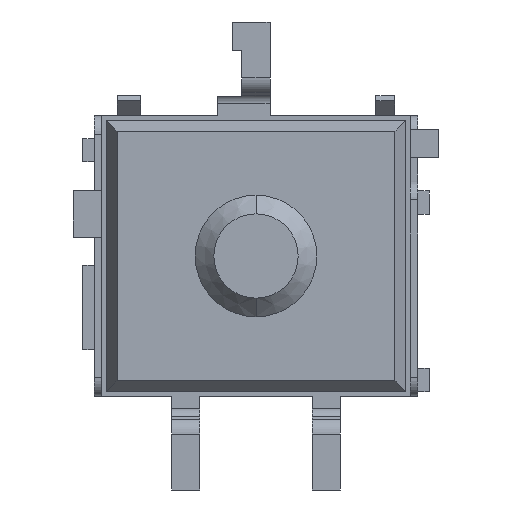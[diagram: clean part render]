
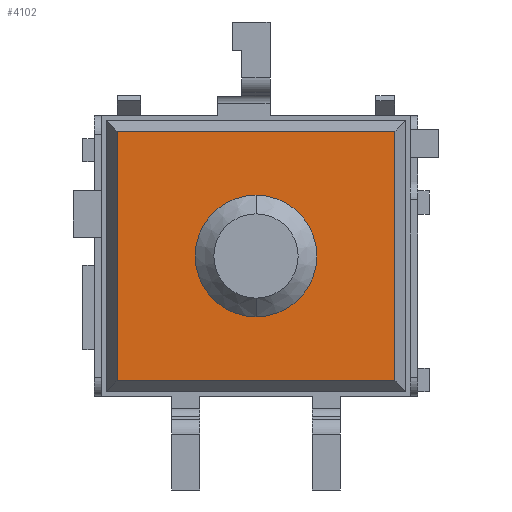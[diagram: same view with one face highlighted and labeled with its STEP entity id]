
A CAD part, front view. The second image highlights one B-rep face of the part: STEP entity #4102.
In plain terms, the highlighted planar face has unit normal (0, -1, 0).
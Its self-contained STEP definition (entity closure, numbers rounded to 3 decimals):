
#106 = FACE_OUTER_BOUND ( 'NONE', #271, .T. ) ;
#114 = FACE_BOUND ( 'NONE', #4681, .T. ) ;
#271 = EDGE_LOOP ( 'NONE', ( #9002, #9111, #9120, #9113 ) ) ;
#2100 = CARTESIAN_POINT ( 'NONE',  ( 0., -0.2, 0. ) ) ;
#2101 = DIRECTION ( 'NONE',  ( 0., -1., 0. ) ) ;
#2102 = DIRECTION ( 'NONE',  ( 0., 0., -1. ) ) ;
#2123 = CARTESIAN_POINT ( 'NONE',  ( 0., -0.2, 0. ) ) ;
#2125 = DIRECTION ( 'NONE',  ( 0., -1., 0. ) ) ;
#2126 = DIRECTION ( 'NONE',  ( 0., 0., -1. ) ) ;
#2139 = CARTESIAN_POINT ( 'NONE',  ( -1.485, -0.2, -1.45 ) ) ;
#2140 = DIRECTION ( 'NONE',  ( 0., 0., 1. ) ) ;
#2141 = CARTESIAN_POINT ( 'NONE',  ( -1.65, -0.2, 1.335 ) ) ;
#2143 = CARTESIAN_POINT ( 'NONE',  ( 1.485, -0.2, -1.45 ) ) ;
#2144 = DIRECTION ( 'NONE',  ( 0., 0., -1. ) ) ;
#2147 = DIRECTION ( 'NONE',  ( 1., 0., 0. ) ) ;
#2562 = CIRCLE ( 'NONE', #4009, 0.65 ) ;
#2579 = LINE ( 'NONE', #2141, #2598 ) ;
#2581 = CIRCLE ( 'NONE', #4013, 0.65 ) ;
#2592 = LINE ( 'NONE', #2139, #2593 ) ;
#2593 = VECTOR ( 'NONE', #2140, 1000. ) ;
#2596 = LINE ( 'NONE', #2143, #2597 ) ;
#2597 = VECTOR ( 'NONE', #2144, 1000. ) ;
#2598 = VECTOR ( 'NONE', #2147, 1000. ) ;
#3461 = VERTEX_POINT ( 'NONE', #7462 ) ;
#3474 = VERTEX_POINT ( 'NONE', #7475 ) ;
#3478 = VERTEX_POINT ( 'NONE', #7479 ) ;
#3479 = VERTEX_POINT ( 'NONE', #7480 ) ;
#4009 = AXIS2_PLACEMENT_3D ( 'NONE', #2100, #2101, #2102 ) ;
#4013 = AXIS2_PLACEMENT_3D ( 'NONE', #2123, #2125, #2126 ) ;
#4102 = ADVANCED_FACE ( 'NONE', ( #106, #114 ), #7534, .T. ) ;
#4618 = VERTEX_POINT ( 'NONE', #7956 ) ;
#4630 = VERTEX_POINT ( 'NONE', #7973 ) ;
#4681 = EDGE_LOOP ( 'NONE', ( #9020, #9115 ) ) ;
#5017 = EDGE_CURVE ( 'NONE', #4630, #4618, #2562, .T. ) ;
#5027 = EDGE_CURVE ( 'NONE', #4618, #4630, #2581, .T. ) ;
#5034 = EDGE_CURVE ( 'NONE', #3479, #3478, #2592, .T. ) ;
#5036 = EDGE_CURVE ( 'NONE', #3474, #3461, #2596, .T. ) ;
#5037 = EDGE_CURVE ( 'NONE', #3478, #3474, #2579, .T. ) ;
#5555 = EDGE_CURVE ( 'NONE', #3479, #3461, #6234, .T. ) ;
#5944 = CARTESIAN_POINT ( 'NONE',  ( -1.65, -0.2, -1.335 ) ) ;
#5945 = DIRECTION ( 'NONE',  ( 1., 0., 0. ) ) ;
#6234 = LINE ( 'NONE', #5944, #6235 ) ;
#6235 = VECTOR ( 'NONE', #5945, 1000. ) ;
#6723 = AXIS2_PLACEMENT_3D ( 'NONE', #7533, #7535, #7536 ) ;
#7462 = CARTESIAN_POINT ( 'NONE',  ( 1.485, -0.2, -1.335 ) ) ;
#7475 = CARTESIAN_POINT ( 'NONE',  ( 1.485, -0.2, 1.335 ) ) ;
#7479 = CARTESIAN_POINT ( 'NONE',  ( -1.485, -0.2, 1.335 ) ) ;
#7480 = CARTESIAN_POINT ( 'NONE',  ( -1.485, -0.2, -1.335 ) ) ;
#7533 = CARTESIAN_POINT ( 'NONE',  ( -1.6, -0.2, -1.45 ) ) ;
#7534 = PLANE ( 'NONE',  #6723 ) ;
#7535 = DIRECTION ( 'NONE',  ( 0., -1., 0. ) ) ;
#7536 = DIRECTION ( 'NONE',  ( 0., 0., -1. ) ) ;
#7956 = CARTESIAN_POINT ( 'NONE',  ( 0., -0.2, -0.65 ) ) ;
#7973 = CARTESIAN_POINT ( 'NONE',  ( 0., -0.2, 0.65 ) ) ;
#9002 = ORIENTED_EDGE ( 'NONE', *, *, #5037, .F. ) ;
#9020 = ORIENTED_EDGE ( 'NONE', *, *, #5017, .F. ) ;
#9111 = ORIENTED_EDGE ( 'NONE', *, *, #5034, .F. ) ;
#9113 = ORIENTED_EDGE ( 'NONE', *, *, #5036, .F. ) ;
#9115 = ORIENTED_EDGE ( 'NONE', *, *, #5027, .F. ) ;
#9120 = ORIENTED_EDGE ( 'NONE', *, *, #5555, .T. ) ;
